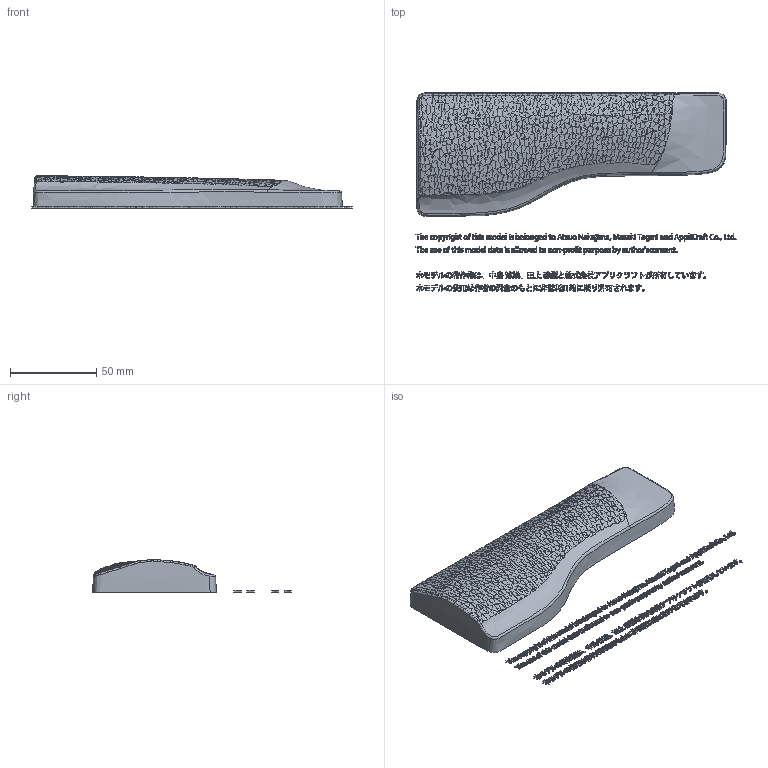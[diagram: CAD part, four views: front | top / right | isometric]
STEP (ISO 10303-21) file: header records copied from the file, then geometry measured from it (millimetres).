
FILE_DESCRIPTION(/* description */ (''),/* implementation_level */ '2;1');
FILE_NAME(/* name */ 'HAMMER~1',/* time_stamp */ '2018-03-05T12:37:21+09:00',/* author */ (''),/* organization */ (''),/* preprocessor_version */ 'ST-DEVELOPER v15',/* originating_system */ '',/* authorisation */ '');
FILE_SCHEMA (('AUTOMOTIVE_DESIGN'));
Products named in the file (1): Document
Bounding box: 185.74 x 115.5 x 18.74 mm (x, y, z)
Volume: 148986.2 mm3; surface area: 30816.6 mm2
Topology: 296 solids, 296 shells, 4759 faces, 13651 edges, 8674 vertices
Faces by surface type: plane 2497, bspline 2262
Entity records: 240047 total; most frequent: CARTESIAN_POINT 153476, ORIENTED_EDGE 25682, EDGE_CURVE 12841, B_SPLINE_CURVE_WITH_KNOTS 12425, VERTEX_POINT 8674, EDGE_LOOP 5005, ADVANCED_FACE 4759, FACE_OUTER_BOUND 4759
